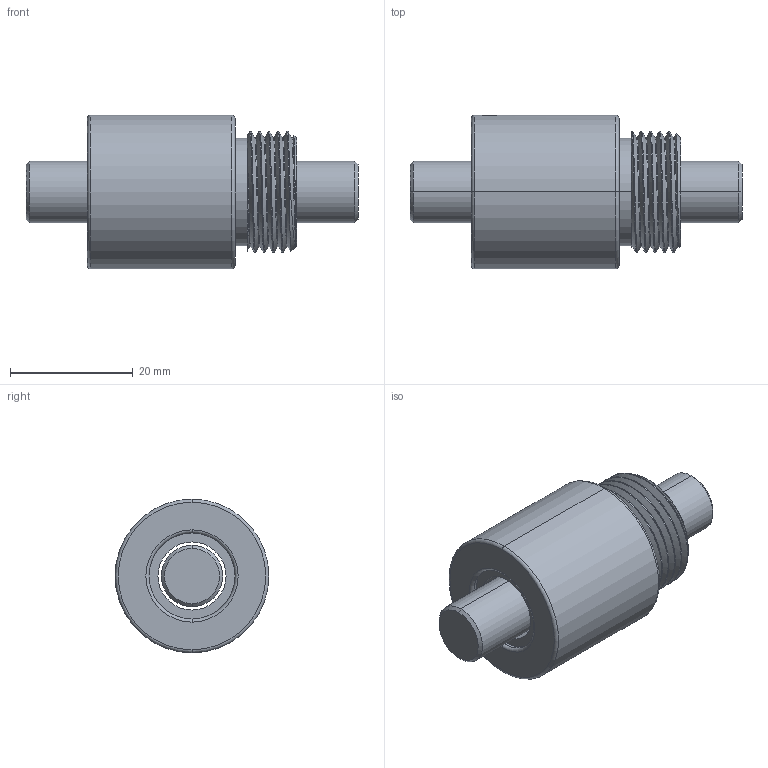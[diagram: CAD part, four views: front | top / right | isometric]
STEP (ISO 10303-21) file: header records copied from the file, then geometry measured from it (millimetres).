
FILE_DESCRIPTION (( 'STEP AP203' ), '1' );
FILE_NAME ('BSHR01004B1-C.STEP', '2020-06-17T06:54:51', ( '' ), ( '' ), 'SwSTEP 2.0', 'SolidWorks 2013', '' );
FILE_SCHEMA (( 'CONFIG_CONTROL_DESIGN' ));
Length unit declared in the file: millimetre
Products named in the file (1): BSHR01004B1-C
Bounding box: 54 x 25 x 25 mm (x, y, z)
Volume: 15267.6 mm3; surface area: 6659.1 mm2
Topology: 2 solids, 2 shells, 61 faces, 145 edges, 91 vertices
Faces by surface type: cylinder 35, cone 8, torus 8, plane 8, bspline 2
Entity records: 2687 total; most frequent: CARTESIAN_POINT 1309, ORIENTED_EDGE 286, DIRECTION 265, EDGE_CURVE 143, AXIS2_PLACEMENT_3D 112, VERTEX_POINT 91, EDGE_LOOP 68, ADVANCED_FACE 61
